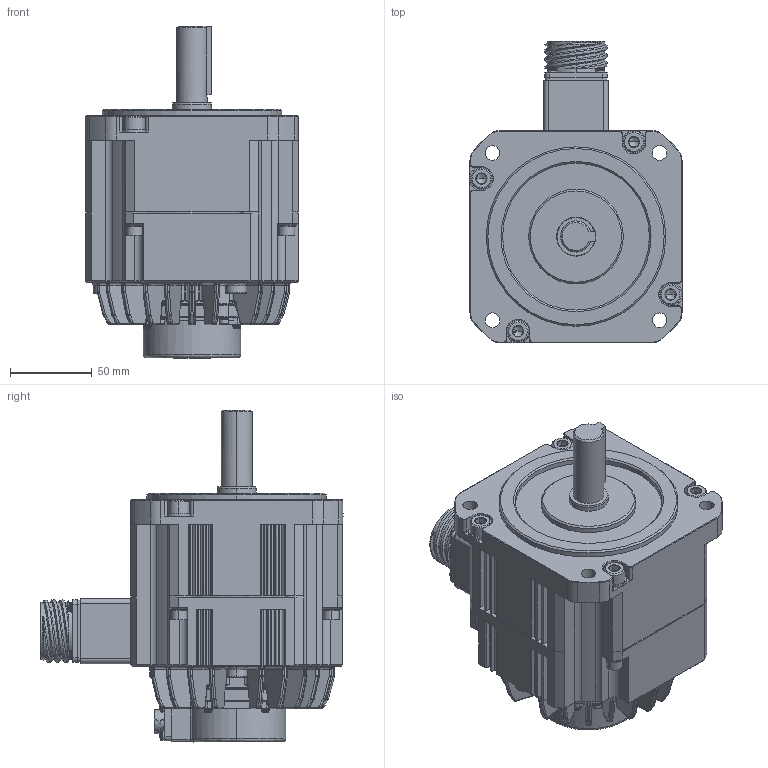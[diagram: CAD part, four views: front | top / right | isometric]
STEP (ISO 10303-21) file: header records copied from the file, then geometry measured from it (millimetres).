
FILE_DESCRIPTION (( 'STEP AP203' ), '1' );
FILE_NAME ('TSM3563N2373E721‘•”z.STEP', '2018-06-25T02:58:52', ( '' ), ( '' ), 'SwSTEP 2.0', 'SolidWorks 2017', '' );
FILE_SCHEMA (( 'CONFIG_CONTROL_DESIGN' ));
Length unit declared in the file: millimetre
Products named in the file (2): Part23^TSM3563N2373E721装配; TSM3563N2373E721装配
Assembly tree (1 placements, depth 2):
  TSM3563N2373E721装配
    Part23^TSM3563N2373E721装配
Bounding box: 130.5 x 185.2 x 203.5 mm (x, y, z)
Volume: 1794526.1 mm3; surface area: 149590.5 mm2
Topology: 1 solids, 24 shells, 3228 faces, 8084 edges, 4912 vertices
Faces by surface type: bspline 1088, plane 1057, cylinder 829, cone 254
Entity records: 158603 total; most frequent: CARTESIAN_POINT 90263, ORIENTED_EDGE 15958, DIRECTION 11524, EDGE_CURVE 7979, VERTEX_POINT 4912, AXIS2_PLACEMENT_3D 3932, LINE 3660, VECTOR 3660
